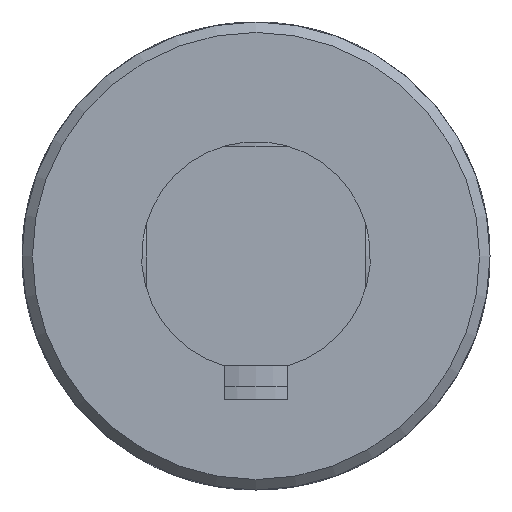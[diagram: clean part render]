
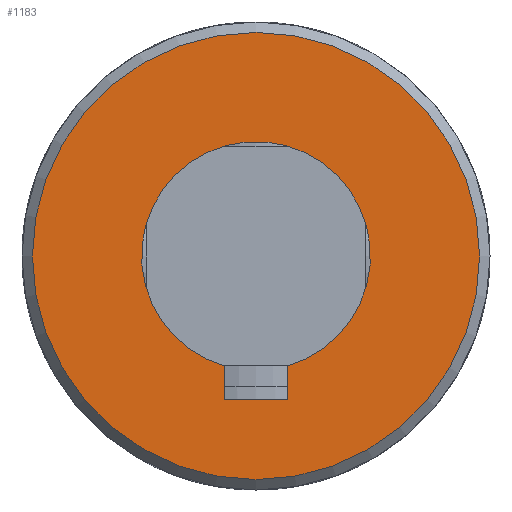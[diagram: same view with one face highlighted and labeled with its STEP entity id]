
A CAD part, front view. The second image highlights one B-rep face of the part: STEP entity #1183.
In plain terms, the highlighted planar face has unit normal (0, -1, 0).
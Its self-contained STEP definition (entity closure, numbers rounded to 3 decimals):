
#133=LINE('',#2107,#178);
#137=LINE('',#2130,#182);
#139=LINE('',#2138,#184);
#178=VECTOR('',#1532,3.217);
#182=VECTOR('',#1544,6.);
#184=VECTOR('',#1548,3.217);
#223=PLANE('',#1304);
#264=FACE_BOUND('',#426,.T.);
#322=FACE_OUTER_BOUND('',#425,.T.);
#425=EDGE_LOOP('',(#1009));
#426=EDGE_LOOP('',(#1010,#1011,#1012,#1013));
#489=CIRCLE('',#1291,11.);
#495=CIRCLE('',#1302,21.5);
#579=VERTEX_POINT('',#2104);
#580=VERTEX_POINT('',#2106);
#583=VERTEX_POINT('',#2116);
#585=VERTEX_POINT('',#2128);
#594=VERTEX_POINT('',#2217);
#718=EDGE_CURVE('',#580,#579,#133,.T.);
#722=EDGE_CURVE('',#583,#580,#489,.T.);
#726=EDGE_CURVE('',#579,#585,#137,.T.);
#729=EDGE_CURVE('',#585,#583,#139,.T.);
#739=EDGE_CURVE('',#594,#594,#495,.T.);
#1009=ORIENTED_EDGE('',*,*,#739,.F.);
#1010=ORIENTED_EDGE('',*,*,#718,.T.);
#1011=ORIENTED_EDGE('',*,*,#726,.T.);
#1012=ORIENTED_EDGE('',*,*,#729,.T.);
#1013=ORIENTED_EDGE('',*,*,#722,.T.);
#1183=ADVANCED_FACE('',(#322,#264),#223,.F.);
#1291=AXIS2_PLACEMENT_3D('',#2117,#1538,#1539);
#1302=AXIS2_PLACEMENT_3D('',#2218,#1565,#1566);
#1304=AXIS2_PLACEMENT_3D('',#2402,#1573,#1574);
#1532=DIRECTION('',(0.,0.,-1.));
#1538=DIRECTION('center_axis',(0.,1.,0.));
#1539=DIRECTION('ref_axis',(-0.273,0.,0.962));
#1544=DIRECTION('',(-1.,0.,0.));
#1548=DIRECTION('',(0.,0.,1.));
#1565=DIRECTION('center_axis',(0.,1.,0.));
#1566=DIRECTION('ref_axis',(1.,0.,0.));
#1573=DIRECTION('center_axis',(0.,1.,0.));
#1574=DIRECTION('ref_axis',(0.,0.,1.));
#2104=CARTESIAN_POINT('',(3.,-58.,-13.8));
#2106=CARTESIAN_POINT('',(3.,-58.,-10.583));
#2107=CARTESIAN_POINT('',(3.,-58.,-5.292));
#2116=CARTESIAN_POINT('',(-3.,-58.,-10.583));
#2117=CARTESIAN_POINT('Origin',(0.,-58.,0.));
#2128=CARTESIAN_POINT('',(-3.,-58.,-13.8));
#2130=CARTESIAN_POINT('',(1.5,-58.,-13.8));
#2138=CARTESIAN_POINT('',(-3.,-58.,-6.9));
#2217=CARTESIAN_POINT('',(-21.5,-58.,0.));
#2218=CARTESIAN_POINT('Origin',(0.,-58.,0.));
#2402=CARTESIAN_POINT('Origin',(0.,-58.,0.));
